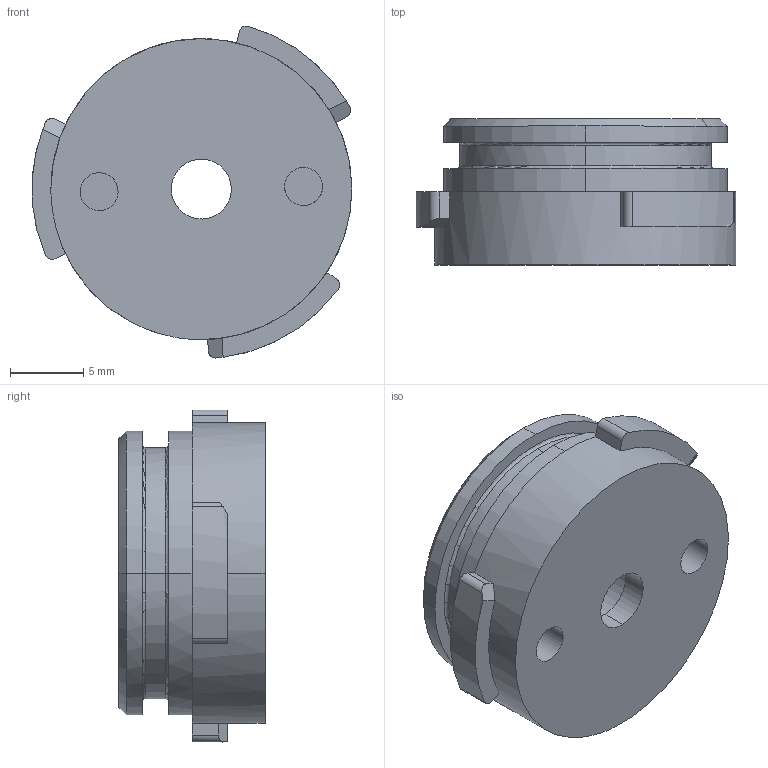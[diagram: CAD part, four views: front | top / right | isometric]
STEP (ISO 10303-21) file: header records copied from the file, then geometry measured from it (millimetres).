
FILE_DESCRIPTION(('CATIA V5 STEP Exchange'),'2;1');
FILE_NAME('C:\Users\Administrator\Desktop\BPC0010140-B.stp','2021-05-10T06:23:19+00:00',('none'),('none'),'CATIA Version 5 Release 20 GA (IN-10)','CATIA V5 STEP AP214','none');
FILE_SCHEMA(('AUTOMOTIVE_DESIGN { 1 0 10303 214 1 1 1 1 }'));
Length unit declared in the file: millimetre
Products named in the file (1): BPC0010140
Bounding box: 21.88 x 10 x 22.72 mm (x, y, z)
Volume: 2642.5 mm3; surface area: 1753.6 mm2
Topology: 1 solids, 1 shells, 78 faces, 209 edges, 141 vertices
Faces by surface type: cylinder 40, plane 22, cone 8, torus 8
Entity records: 2577 total; most frequent: CARTESIAN_POINT 709, ORIENTED_EDGE 418, DIRECTION 304, EDGE_CURVE 209, AXIS2_PLACEMENT_3D 164, VERTEX_POINT 141, CIRCLE 92, EDGE_LOOP 88
